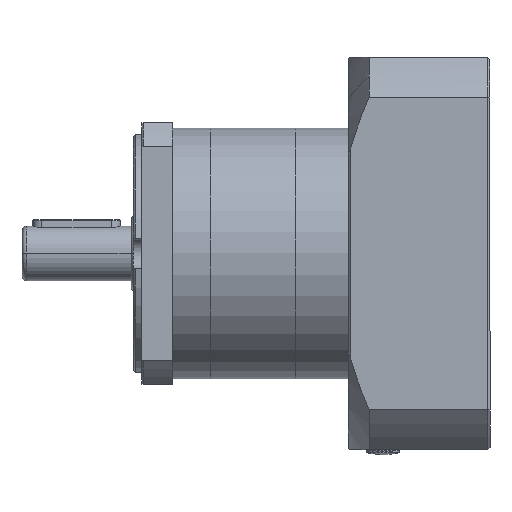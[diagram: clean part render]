
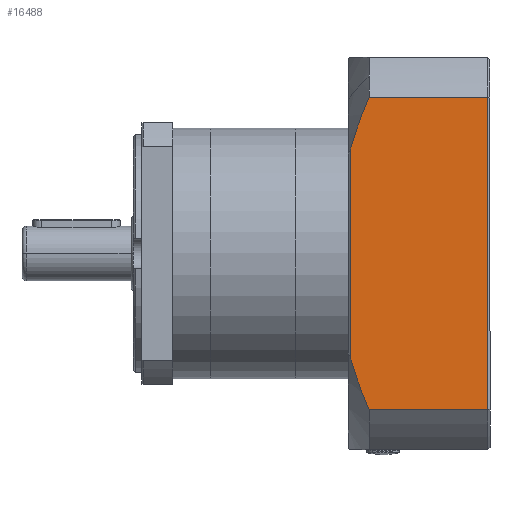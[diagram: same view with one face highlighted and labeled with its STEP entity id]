
A CAD part, front view. The second image highlights one B-rep face of the part: STEP entity #16488.
In plain terms, the highlighted planar face has unit normal (0, -1, 0).
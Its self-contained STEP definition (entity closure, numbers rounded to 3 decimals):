
#1057 = VECTOR ( 'NONE', #24139, 1000. ) ;
#1882 = CARTESIAN_POINT ( 'NONE',  ( 99.5, -90., -71.589 ) ) ;
#1895 = DIRECTION ( 'NONE',  ( 0., 0., 1. ) ) ;
#1921 = ORIENTED_EDGE ( 'NONE', *, *, #9018, .T. ) ;
#2012 = VECTOR ( 'NONE', #30664, 1000. ) ;
#2334 = DIRECTION ( 'NONE',  ( 0., 1., 0. ) ) ;
#2915 = EDGE_CURVE ( 'NONE', #18004, #9736, #35509, .T. ) ;
#4259 = LINE ( 'NONE', #1882, #12526 ) ;
#4600 = CARTESIAN_POINT ( 'NONE',  ( 98.5, -90., 71.589 ) ) ;
#5529 = LINE ( 'NONE', #21895, #2012 ) ;
#6109 = CARTESIAN_POINT ( 'NONE',  ( 162.5, -90., 71.589 ) ) ;
#8004 = DIRECTION ( 'NONE',  ( 0., 1., 0. ) ) ;
#9018 = EDGE_CURVE ( 'NONE', #30417, #25731, #4259, .T. ) ;
#9736 = VERTEX_POINT ( 'NONE', #6109 ) ;
#12526 = VECTOR ( 'NONE', #26656, 1000. ) ;
#13267 = AXIS2_PLACEMENT_3D ( 'NONE', #21911, #8004, #1895 ) ;
#13423 = PLANE ( 'NONE',  #17564 ) ;
#14014 = CARTESIAN_POINT ( 'NONE',  ( 99.5, -90., 47.386 ) ) ;
#15267 = DIRECTION ( 'NONE',  ( 0., 0., 1. ) ) ;
#16488 = ADVANCED_FACE ( 'NONE', ( #32661 ), #13423, .F. ) ;
#16945 = CARTESIAN_POINT ( 'NONE',  ( 108.074, -90., -71.589 ) ) ;
#17564 = AXIS2_PLACEMENT_3D ( 'NONE', #19050, #2334, #21625 ) ;
#17802 = EDGE_CURVE ( 'NONE', #30909, #9736, #34758, .T. ) ;
#18004 = VERTEX_POINT ( 'NONE', #19056 ) ;
#18549 = EDGE_CURVE ( 'NONE', #30909, #31552, #5529, .T. ) ;
#18627 = DIRECTION ( 'NONE',  ( 0., 0., 1. ) ) ;
#19050 = CARTESIAN_POINT ( 'NONE',  ( 163.5, -90., -90. ) ) ;
#19056 = CARTESIAN_POINT ( 'NONE',  ( 108.074, -90., 71.589 ) ) ;
#19119 = AXIS2_PLACEMENT_3D ( 'NONE', #27062, #35437, #18627 ) ;
#19365 = EDGE_LOOP ( 'NONE', ( #26157, #19521, #25263, #21948, #27923, #1921 ) ) ;
#19521 = ORIENTED_EDGE ( 'NONE', *, *, #18549, .F. ) ;
#21625 = DIRECTION ( 'NONE',  ( 0., 0., 1. ) ) ;
#21895 = CARTESIAN_POINT ( 'NONE',  ( 98.5, -90., -71.589 ) ) ;
#21911 = CARTESIAN_POINT ( 'NONE',  ( 271.705, -90., 0. ) ) ;
#21948 = ORIENTED_EDGE ( 'NONE', *, *, #2915, .F. ) ;
#22986 = EDGE_CURVE ( 'NONE', #31552, #25731, #24031, .T. ) ;
#23291 = EDGE_CURVE ( 'NONE', #30417, #18004, #30524, .T. ) ;
#23942 = CARTESIAN_POINT ( 'NONE',  ( 99.5, -90., -47.386 ) ) ;
#24031 = CIRCLE ( 'NONE', #19119, 178.606 ) ;
#24139 = DIRECTION ( 'NONE',  ( 1., 0., 0. ) ) ;
#25263 = ORIENTED_EDGE ( 'NONE', *, *, #17802, .T. ) ;
#25731 = VERTEX_POINT ( 'NONE', #23942 ) ;
#26157 = ORIENTED_EDGE ( 'NONE', *, *, #22986, .F. ) ;
#26656 = DIRECTION ( 'NONE',  ( 0., 0., -1. ) ) ;
#27062 = CARTESIAN_POINT ( 'NONE',  ( 271.705, -90., 0. ) ) ;
#27155 = CARTESIAN_POINT ( 'NONE',  ( 162.5, -90., -71.589 ) ) ;
#27923 = ORIENTED_EDGE ( 'NONE', *, *, #23291, .F. ) ;
#29195 = CARTESIAN_POINT ( 'NONE',  ( 162.5, -90., -90. ) ) ;
#30417 = VERTEX_POINT ( 'NONE', #14014 ) ;
#30524 = CIRCLE ( 'NONE', #13267, 178.606 ) ;
#30664 = DIRECTION ( 'NONE',  ( -1., 0., 0. ) ) ;
#30909 = VERTEX_POINT ( 'NONE', #27155 ) ;
#31552 = VERTEX_POINT ( 'NONE', #16945 ) ;
#32661 = FACE_OUTER_BOUND ( 'NONE', #19365, .T. ) ;
#34343 = VECTOR ( 'NONE', #15267, 1000. ) ;
#34758 = LINE ( 'NONE', #29195, #34343 ) ;
#35437 = DIRECTION ( 'NONE',  ( 0., 1., 0. ) ) ;
#35509 = LINE ( 'NONE', #4600, #1057 ) ;
